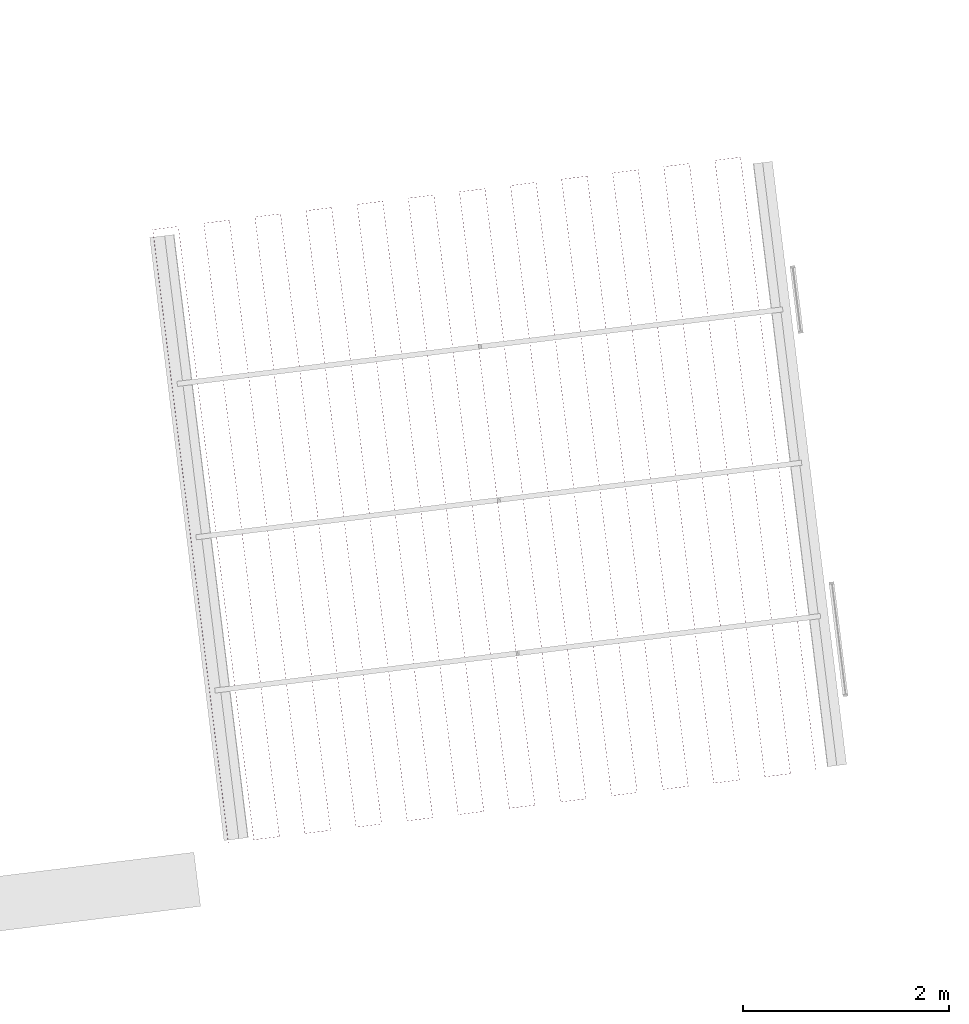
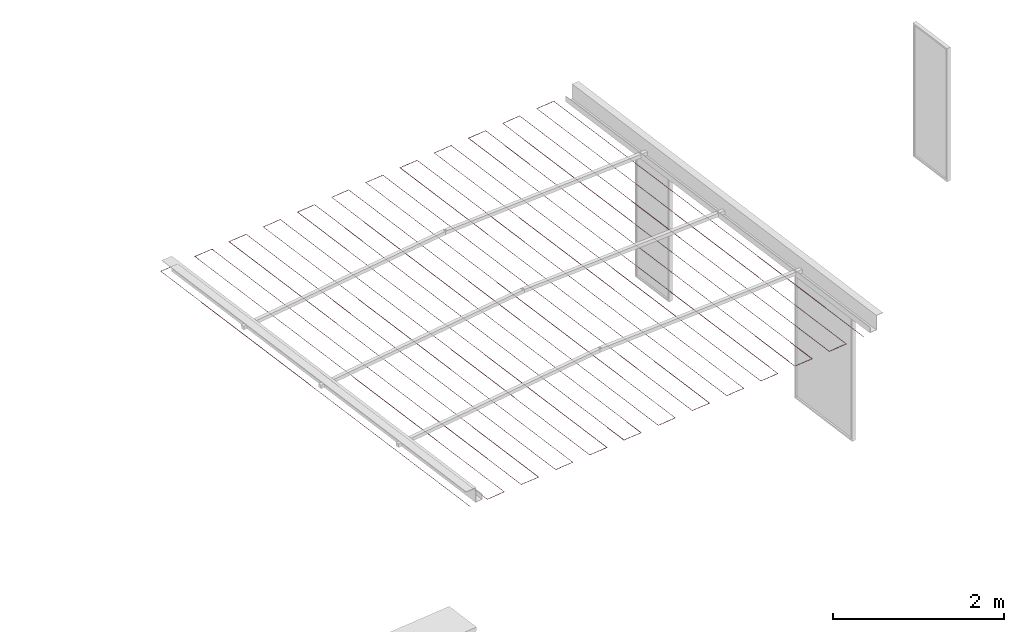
# One storey, part 9 of 10: 1 furnishing.
"""IFC2X3 building model written with IfcOpenShell, lengths in metres."""

from ifc_helpers import new_model, entity, si_unit, converted_unit, derived_unit, direction, frame, origin, place, context, subcontext, project, spatial, faceted_brep, source, transform, mapped, material, type_object, type_shapes, element, save


model = new_model("IFC2X3")

# Units and contexts
model_context = context("Model", 3, precision=1e-05, world=origin(), true_north=direction((6.123031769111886e-17, 1.0)))
body_context = subcontext(model_context, "Body", "Model", "MODEL_VIEW")
ifc_project = project(units=[si_unit("LENGTHUNIT", "METRE"), si_unit("AREAUNIT", "SQUARE_METRE"), si_unit("VOLUMEUNIT", "CUBIC_METRE"), converted_unit("PLANEANGLEUNIT", "DEGREE", entity("IfcRatioMeasure", 0.017453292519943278), si_unit("PLANEANGLEUNIT", "RADIAN"), dimensions=[0, 0, 0, 0, 0, 0, 0]), si_unit("MASSUNIT", "GRAM", prefix="KILO"), derived_unit("MASSDENSITYUNIT", [(si_unit("MASSUNIT", "GRAM", prefix="KILO"), 1), (si_unit("LENGTHUNIT", "METRE"), -3)]), derived_unit("IONCONCENTRATIONUNIT", [(si_unit("MASSUNIT", "GRAM", prefix="KILO"), 1), (si_unit("LENGTHUNIT", "METRE"), -3)]), derived_unit("MOMENTOFINERTIAUNIT", [(si_unit("LENGTHUNIT", "METRE"), 4)]), si_unit("TIMEUNIT", "SECOND"), si_unit("FREQUENCYUNIT", "HERTZ"), si_unit("THERMODYNAMICTEMPERATUREUNIT", "DEGREE_CELSIUS"), derived_unit("THERMALTRANSMITTANCEUNIT", [(si_unit("MASSUNIT", "GRAM", prefix="KILO"), 1), (si_unit("THERMODYNAMICTEMPERATUREUNIT", "KELVIN"), -1), (si_unit("TIMEUNIT", "SECOND"), -3)]), derived_unit("THERMALCONDUCTANCEUNIT", [(si_unit("MASSUNIT", "GRAM", prefix="KILO"), 1), (si_unit("THERMODYNAMICTEMPERATUREUNIT", "KELVIN"), -1), (si_unit("TIMEUNIT", "SECOND"), -3), (si_unit("LENGTHUNIT", "METRE"), 1)]), derived_unit("VOLUMETRICFLOWRATEUNIT", [(si_unit("LENGTHUNIT", "METRE"), 3), (si_unit("TIMEUNIT", "SECOND"), -1)]), derived_unit("MASSFLOWRATEUNIT", [(si_unit("MASSUNIT", "GRAM", prefix="KILO"), 1), (si_unit("TIMEUNIT", "SECOND"), -1)]), derived_unit("ROTATIONALFREQUENCYUNIT", [(si_unit("TIMEUNIT", "SECOND"), -1)]), si_unit("ELECTRICCURRENTUNIT", "AMPERE"), si_unit("ELECTRICVOLTAGEUNIT", "VOLT"), si_unit("POWERUNIT", "WATT"), si_unit("FORCEUNIT", "NEWTON", prefix="KILO"), si_unit("ILLUMINANCEUNIT", "LUX"), si_unit("LUMINOUSFLUXUNIT", "LUMEN"), si_unit("LUMINOUSINTENSITYUNIT", "CANDELA"), derived_unit("USERDEFINED", [(si_unit("MASSUNIT", "GRAM", prefix="KILO"), -1), (si_unit("LENGTHUNIT", "METRE"), -2), (si_unit("TIMEUNIT", "SECOND"), 3), (si_unit("LUMINOUSFLUXUNIT", "LUMEN"), 1)]), derived_unit("USERDEFINED", [(si_unit("MASSUNIT", "GRAM", prefix="KILO"), 1), (si_unit("TIMEUNIT", "SECOND"), -3), (si_unit("LENGTHUNIT", "METRE"), 3), (si_unit("ELECTRICCURRENTUNIT", "AMPERE"), -2)]), derived_unit("SOUNDPOWERUNIT", [(si_unit("MASSUNIT", "GRAM", prefix="KILO"), 1), (si_unit("TIMEUNIT", "SECOND"), -3), (si_unit("LENGTHUNIT", "METRE"), 2)]), derived_unit("SOUNDPRESSUREUNIT", [(si_unit("MASSUNIT", "GRAM", prefix="KILO"), 1), (si_unit("LENGTHUNIT", "METRE"), -1), (si_unit("TIMEUNIT", "SECOND"), -2)]), derived_unit("LINEARVELOCITYUNIT", [(si_unit("LENGTHUNIT", "METRE"), 1), (si_unit("TIMEUNIT", "SECOND"), -1)]), si_unit("PRESSUREUNIT", "PASCAL"), derived_unit("USERDEFINED", [(si_unit("MASSUNIT", "GRAM", prefix="KILO"), 1), (si_unit("LENGTHUNIT", "METRE"), -2), (si_unit("TIMEUNIT", "SECOND"), -2)]), derived_unit("LINEARFORCEUNIT", [(si_unit("MASSUNIT", "GRAM", prefix="KILO"), 1), (si_unit("TIMEUNIT", "SECOND"), -2)]), derived_unit("PLANARFORCEUNIT", [(si_unit("MASSUNIT", "GRAM", prefix="KILO"), 1), (si_unit("LENGTHUNIT", "METRE"), -1), (si_unit("TIMEUNIT", "SECOND"), -2)]), derived_unit("SPECIFICHEATCAPACITYUNIT", [(si_unit("THERMODYNAMICTEMPERATUREUNIT", "KELVIN"), -1), (si_unit("LENGTHUNIT", "METRE"), 2), (si_unit("TIMEUNIT", "SECOND"), -2)]), derived_unit("HEATINGVALUEUNIT", [(si_unit("LENGTHUNIT", "METRE"), 2), (si_unit("TIMEUNIT", "SECOND"), -2)]), derived_unit("VAPORPERMEABILITYUNIT", [(si_unit("LENGTHUNIT", "METRE"), -1), (si_unit("TIMEUNIT", "SECOND"), 1)]), derived_unit("DYNAMICVISCOSITYUNIT", [(si_unit("MASSUNIT", "GRAM", prefix="KILO"), 1), (si_unit("TIMEUNIT", "SECOND"), -1), (si_unit("LENGTHUNIT", "METRE"), -1)]), derived_unit("THERMALEXPANSIONCOEFFICIENTUNIT", [(si_unit("THERMODYNAMICTEMPERATUREUNIT", "KELVIN"), -1)]), derived_unit("MODULUSOFELASTICITYUNIT", [(si_unit("MASSUNIT", "GRAM", prefix="KILO"), 1), (si_unit("LENGTHUNIT", "METRE"), -1), (si_unit("TIMEUNIT", "SECOND"), -2)]), derived_unit("ISOTHERMALMOISTURECAPACITYUNIT", [(si_unit("LENGTHUNIT", "METRE"), 3), (si_unit("MASSUNIT", "GRAM", prefix="KILO"), -1)]), derived_unit("MOISTUREDIFFUSIVITYUNIT", [(si_unit("TIMEUNIT", "SECOND"), -1), (si_unit("LENGTHUNIT", "METRE"), 2)])], contexts=[model_context])

# Site, building, storey
site_placement = place(None, origin())
site = spatial("IfcSite", under=ifc_project, at=site_placement, Name="Default", CompositionType="ELEMENT")
building_placement = place(site_placement, origin())
building = spatial("IfcBuilding", under=site, at=building_placement, Name="Projeto", CompositionType="ELEMENT")
storey_placement = place(building_placement, frame((0.0, 0.0, -2.581035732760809)))
storey = spatial("IfcBuildingStorey", under=building, at=storey_placement, Name="Nível 9", CompositionType="ELEMENT", Elevation=-2.581035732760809)

# Furnishing
ifc_material = material(Name="Aço")
furniture_type = type_object("IfcFurnitureType", Name="Pergolado2:Pergolado", material=ifc_material)
shared_shape = source(origin(), body_context, "Body", "Brep", [
    faceted_brep([(0.7366170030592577, 0.0018395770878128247, 0.0025952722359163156), (0.7356244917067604, 0.0017174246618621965, 0.003595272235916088), (0.7346319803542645, 0.0015952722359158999, 0.0025952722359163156), (0.7356244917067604, 0.0017174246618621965, 0.0015952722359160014), (6.442564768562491, 0.7040938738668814, 0.00159527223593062), (6.443557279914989, 0.7042160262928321, 0.002595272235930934), (6.442564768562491, 0.7040938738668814, 0.003595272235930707), (6.441572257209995, 0.7039717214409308, 0.002595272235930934), (4.717138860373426, 6.537009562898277, 0.0035952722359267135), (4.716268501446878, 6.5358948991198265, 0.002595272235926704), (5.265832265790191, 2.070586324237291, 0.0025952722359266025), (5.44918305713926, 0.5808267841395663, 0.0025952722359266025), (5.450053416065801, 0.5819414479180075, 0.0035952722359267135), (5.266824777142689, 2.0707084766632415, 0.0035952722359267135), (5.267817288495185, 2.070830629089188, 0.0025952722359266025), (4.718009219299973, 6.538124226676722, 0.002595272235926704), (5.450923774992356, 0.5830561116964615, 0.0025952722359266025), (5.450053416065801, 0.5819414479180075, 0.0015952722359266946), (5.266824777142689, 2.0707084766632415, 0.0015952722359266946), (4.717138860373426, 6.537009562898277, 0.0015952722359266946), (4.21052888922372, 0.428380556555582, 0.0025952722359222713), (4.027178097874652, 1.9181400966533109, 0.0025952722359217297), (3.4776143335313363, 6.3834486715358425, 0.0025952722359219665), (3.4764996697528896, 6.3843190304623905, 0.003595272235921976), (4.026185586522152, 1.9180179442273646, 0.003595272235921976), (4.209414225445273, 0.4292509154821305, 0.003595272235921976), (3.4753850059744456, 6.385189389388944, 0.0025952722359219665), (4.025193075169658, 1.917895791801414, 0.0025952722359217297), (4.208299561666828, 0.43012127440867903, 0.0025952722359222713), (4.209414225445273, 0.4292509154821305, 0.0015952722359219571), (3.4764996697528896, 6.3843190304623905, 0.0015952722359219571), (4.026185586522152, 1.9180179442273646, 0.0015952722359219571), (3.7237571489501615, 6.413742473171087, 0.002595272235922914), (3.724627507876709, 6.414857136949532, 0.003595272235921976), (3.973870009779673, 6.4445248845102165, 0.0025952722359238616), (4.220012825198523, 6.474818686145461, 0.0025952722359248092), (4.220883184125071, 6.475933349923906, 0.003595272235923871), (3.972755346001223, 6.4453952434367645, 0.003595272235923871), (4.470125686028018, 6.505601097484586, 0.002595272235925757), (4.469011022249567, 6.506471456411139, 0.0035952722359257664), (4.966381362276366, 6.566677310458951, 0.0025952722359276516), (5.212524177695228, 6.596971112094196, 0.002595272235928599), (5.213394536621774, 6.598085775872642, 0.003595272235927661), (4.965266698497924, 6.5675476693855, 0.003595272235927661), (5.462637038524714, 6.627753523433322, 0.0025952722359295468), (5.708779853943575, 6.658047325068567, 0.0025952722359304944), (5.709650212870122, 6.65916198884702, 0.0035952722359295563), (5.461522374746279, 6.62862388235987, 0.0035952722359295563), (0.0038245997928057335, 5.95591518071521, 0.0025952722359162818), (0.24996741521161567, 5.98620898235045, 0.0025952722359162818), (0.25083777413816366, 5.987323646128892, 0.0035952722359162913), (0.002709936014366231, 5.956785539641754, 0.0035952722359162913), (0.5000802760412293, 6.016991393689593, 0.0025952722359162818), (0.7462230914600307, 6.047285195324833, 0.002595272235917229), (0.7470934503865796, 6.048399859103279, 0.0035952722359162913), (0.4989656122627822, 6.017861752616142, 0.0035952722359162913), (0.9963359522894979, 6.078067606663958, 0.0025952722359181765), (1.2424787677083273, 6.108361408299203, 0.0025952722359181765), (1.2433491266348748, 6.109476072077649, 0.003595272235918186), (0.9952212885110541, 6.078937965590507, 0.003595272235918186), (1.4925916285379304, 6.13914381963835, 0.0025952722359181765), (1.7387344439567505, 6.16943762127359, 0.002595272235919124), (1.7396048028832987, 6.170552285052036, 0.003595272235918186), (1.491476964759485, 6.140014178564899, 0.003595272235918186), (1.9888473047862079, 6.200220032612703, 0.0025952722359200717), (2.234990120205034, 6.230513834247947, 0.0025952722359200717), (2.235860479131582, 6.231628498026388, 0.0035952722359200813), (1.987732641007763, 6.201090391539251, 0.0035952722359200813), (2.4851029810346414, 6.261296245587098, 0.0025952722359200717), (2.731245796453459, 6.291590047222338, 0.0025952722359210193), (2.7321161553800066, 6.2927047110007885, 0.0035952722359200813), (2.483988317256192, 6.262166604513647, 0.0035952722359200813), (2.981358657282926, 6.322372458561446, 0.0025952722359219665), (3.227501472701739, 6.352666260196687, 0.0025952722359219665), (3.2283718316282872, 6.353780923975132, 0.003595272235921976), (2.9802439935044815, 6.323242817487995, 0.003595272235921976), (3.725497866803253, 6.415971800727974, 0.0025952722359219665), (4.22175354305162, 6.477048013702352, 0.0025952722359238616), (3.971640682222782, 6.446265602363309, 0.0025952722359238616), (4.467896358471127, 6.507341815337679, 0.002595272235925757), (5.214264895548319, 6.599200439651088, 0.0025952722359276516), (4.964152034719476, 6.568418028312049, 0.0025952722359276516), (5.7105205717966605, 6.660276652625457, 0.0025952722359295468), (5.460407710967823, 6.629494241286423, 0.0025952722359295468), (0.2517081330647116, 5.988438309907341, 0.0025952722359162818), (0.0015952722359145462, 5.957655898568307, 0.0025952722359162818), (0.7479638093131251, 6.049514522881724, 0.0025952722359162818), (0.4978509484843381, 6.01873211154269, 0.0025952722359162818), (1.244219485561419, 6.110590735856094, 0.0025952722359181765), (0.9941066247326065, 6.079808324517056, 0.0025952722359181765), (1.7404751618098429, 6.171666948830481, 0.0025952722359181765), (1.4903623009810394, 6.140884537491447, 0.0025952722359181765), (2.236730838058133, 6.232743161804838, 0.0025952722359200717), (1.986617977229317, 6.201960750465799, 0.0025952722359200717), (2.732986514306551, 6.29381937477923, 0.0025952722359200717), (2.4828736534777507, 6.263036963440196, 0.0025952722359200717), (3.2292421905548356, 6.354895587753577, 0.0025952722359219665), (2.9791293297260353, 6.324113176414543, 0.0025952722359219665), (3.724627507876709, 6.414857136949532, 0.0015952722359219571), (4.220883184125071, 6.475933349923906, 0.001595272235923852), (3.972755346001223, 6.4453952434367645, 0.001595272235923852), (4.469011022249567, 6.506471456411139, 0.001595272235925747), (5.213394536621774, 6.598085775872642, 0.0015952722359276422), (4.965266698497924, 6.5675476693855, 0.0015952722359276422), (5.709650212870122, 6.65916198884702, 0.0015952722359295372), (5.461522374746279, 6.62862388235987, 0.0015952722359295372), (0.25083777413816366, 5.987323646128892, 0.001595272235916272), (0.002709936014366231, 5.956785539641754, 0.001595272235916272), (0.7470934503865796, 6.048399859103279, 0.001595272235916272), (0.4989656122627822, 6.017861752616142, 0.001595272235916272), (1.2433491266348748, 6.109476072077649, 0.001595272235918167), (0.9952212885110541, 6.078937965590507, 0.001595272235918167), (1.7396048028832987, 6.170552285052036, 0.001595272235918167), (1.491476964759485, 6.140014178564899, 0.001595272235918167), (2.235860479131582, 6.231628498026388, 0.0015952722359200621), (1.987732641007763, 6.201090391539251, 0.0015952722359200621), (2.7321161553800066, 6.2927047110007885, 0.0015952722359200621), (2.483988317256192, 6.262166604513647, 0.0015952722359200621), (3.2283718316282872, 6.353780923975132, 0.0015952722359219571), (2.9802439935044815, 6.323242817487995, 0.0015952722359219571), (4.27332091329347, 1.9484338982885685, 0.0025952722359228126), (4.456671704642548, 0.45867435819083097, 0.0025952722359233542), (4.457542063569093, 0.45978902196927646, 0.0035952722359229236), (4.2743134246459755, 1.9485560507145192, 0.0035952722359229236), (4.275305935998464, 1.9486782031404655, 0.0025952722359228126), (4.458412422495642, 0.4609036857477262, 0.0025952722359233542), (4.457542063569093, 0.45978902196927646, 0.0015952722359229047), (4.2743134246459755, 1.9485560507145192, 0.0015952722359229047), (4.706784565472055, 0.48945676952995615, 0.0025952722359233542), (4.705669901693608, 0.49032712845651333, 0.0035952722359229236), (4.9529273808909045, 0.5197505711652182, 0.002595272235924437), (5.2030402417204, 0.5505329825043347, 0.0025952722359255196), (5.201925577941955, 0.5514033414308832, 0.003595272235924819), (4.953797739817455, 0.5208652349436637, 0.003595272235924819), (5.699295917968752, 0.6116091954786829, 0.0025952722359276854), (5.698181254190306, 0.6124795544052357, 0.0035952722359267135), (5.945438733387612, 0.6419029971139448, 0.0025952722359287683), (6.195551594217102, 0.6726854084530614, 0.002595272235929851), (6.194436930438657, 0.6735557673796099, 0.0035952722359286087), (5.946309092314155, 0.643017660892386, 0.0035952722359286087), (0.982881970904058, 0.031140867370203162, 0.002595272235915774), (1.2329948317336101, 0.06192327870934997, 0.002595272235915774), (1.2318801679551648, 0.06279363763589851, 0.0035952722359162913), (0.9837523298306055, 0.03225553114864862, 0.0035952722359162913), (1.4791376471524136, 0.09221708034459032, 0.002595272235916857), (1.7292505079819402, 0.12299949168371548, 0.0025952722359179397), (1.728135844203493, 0.12386985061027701, 0.0035952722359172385), (1.4800080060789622, 0.09333174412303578, 0.0035952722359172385), (1.9753933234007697, 0.15329329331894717, 0.0025952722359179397), (2.2255061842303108, 0.18407570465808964, 0.0025952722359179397), (2.2243915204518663, 0.18494606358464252, 0.003595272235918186), (1.9762636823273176, 0.15440795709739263, 0.003595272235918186), (2.471648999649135, 0.21436950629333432, 0.0025952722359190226), (2.721761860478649, 0.24515191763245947, 0.0025952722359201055), (2.720647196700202, 0.246022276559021, 0.0035952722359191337), (2.4725193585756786, 0.21548417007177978, 0.0035952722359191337), (2.9679046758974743, 0.27544571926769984, 0.0025952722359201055), (3.218017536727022, 0.3062281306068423, 0.0025952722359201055), (3.216902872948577, 0.30709848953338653, 0.0035952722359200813), (2.9687750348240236, 0.2765603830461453, 0.0035952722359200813), (3.464160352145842, 0.33652193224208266, 0.0025952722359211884), (3.7142732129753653, 0.3673043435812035, 0.0025952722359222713), (3.71315854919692, 0.368174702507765, 0.003595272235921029), (3.4650307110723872, 0.3376365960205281, 0.003595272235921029), (3.960416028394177, 0.3975981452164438, 0.0025952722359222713), (3.96128638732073, 0.3987128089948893, 0.003595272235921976), (4.704555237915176, 0.49119748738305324, 0.0025952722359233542), (5.200810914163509, 0.5522737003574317, 0.002595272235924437), (4.9546680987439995, 0.521979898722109, 0.002595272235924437), (5.697066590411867, 0.6133499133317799, 0.0025952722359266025), (6.193322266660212, 0.6744261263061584, 0.0025952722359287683), (5.947179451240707, 0.64413232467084, 0.0025952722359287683), (1.230765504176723, 0.06366399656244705, 0.002595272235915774), (0.984622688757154, 0.03337019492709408, 0.002595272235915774), (1.727021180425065, 0.12474020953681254, 0.002595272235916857), (1.480878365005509, 0.09444640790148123, 0.002595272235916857), (2.223276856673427, 0.1858164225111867, 0.0025952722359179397), (1.9771340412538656, 0.15552262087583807, 0.0025952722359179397), (2.7195325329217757, 0.24689263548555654, 0.0025952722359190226), (2.4733897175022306, 0.21659883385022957, 0.0025952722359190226), (3.215788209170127, 0.3079688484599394, 0.0025952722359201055), (2.96964539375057, 0.27767504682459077, 0.0025952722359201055), (3.7120438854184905, 0.3690450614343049, 0.0025952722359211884), (3.4659010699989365, 0.3387512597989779, 0.0025952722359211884), (3.962156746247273, 0.39982747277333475, 0.0025952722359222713), (4.705669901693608, 0.49032712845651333, 0.0015952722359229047), (5.201925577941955, 0.5514033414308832, 0.0015952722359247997), (4.953797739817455, 0.5208652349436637, 0.0015952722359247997), (5.698181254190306, 0.6124795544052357, 0.0015952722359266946), (6.194436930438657, 0.6735557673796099, 0.0015952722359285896), (5.946309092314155, 0.643017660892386, 0.0015952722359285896), (1.2318801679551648, 0.06279363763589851, 0.001595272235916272), (0.9837523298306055, 0.03225553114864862, 0.001595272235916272), (1.728135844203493, 0.12386985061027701, 0.0015952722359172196), (1.4800080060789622, 0.09333174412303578, 0.0015952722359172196), (2.2243915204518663, 0.18494606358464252, 0.001595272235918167), (1.9762636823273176, 0.15440795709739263, 0.001595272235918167), (2.720647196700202, 0.246022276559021, 0.0015952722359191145), (2.4725193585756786, 0.21548417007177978, 0.0015952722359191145), (3.216902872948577, 0.30709848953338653, 0.0015952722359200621), (2.9687750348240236, 0.2765603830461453, 0.0015952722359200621), (3.71315854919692, 0.368174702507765, 0.0015952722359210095), (3.4650307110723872, 0.3376365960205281, 0.0015952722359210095), (3.96128638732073, 0.3987128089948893, 0.0015952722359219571), (4.523433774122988, 1.9792163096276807, 0.0025952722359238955), (4.52244126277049, 1.97909415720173, 0.003595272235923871), (4.521448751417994, 1.9789720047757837, 0.0025952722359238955), (4.52244126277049, 1.97909415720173, 0.001595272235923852), (4.769576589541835, 2.009510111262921, 0.0025952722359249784), (4.7705691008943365, 2.0096322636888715, 0.003595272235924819), (4.7715616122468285, 2.0097544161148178, 0.0025952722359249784), (4.7705691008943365, 2.0096322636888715, 0.0015952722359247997), (5.019689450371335, 2.040292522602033, 0.0025952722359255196), (5.018696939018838, 2.0401703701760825, 0.0035952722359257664), (5.017704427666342, 2.0400482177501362, 0.0025952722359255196), (5.018696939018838, 2.0401703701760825, 0.001595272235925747), (5.515945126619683, 2.1013687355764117, 0.0025952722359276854), (5.514952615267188, 2.101246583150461, 0.003595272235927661), (5.51396010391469, 2.1011244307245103, 0.0025952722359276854), (5.514952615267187, 2.101246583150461, 0.0015952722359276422), (5.7620879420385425, 2.1316625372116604, 0.0025952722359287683), (5.763080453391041, 2.131784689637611, 0.0035952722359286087), (5.764072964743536, 2.1319068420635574, 0.0025952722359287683), (5.763080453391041, 2.131784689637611, 0.0015952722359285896), (6.012200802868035, 2.1624449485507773, 0.00259527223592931), (6.011208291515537, 2.1623227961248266, 0.0035952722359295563), (6.0102157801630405, 2.1622006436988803, 0.00259527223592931), (6.011208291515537, 2.1623227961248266, 0.0015952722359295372), (6.258343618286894, 2.1927387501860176, 0.002595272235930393), (6.259336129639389, 2.1928609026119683, 0.003595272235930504), (6.2603286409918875, 2.1929830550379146, 0.002595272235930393), (6.259336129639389, 2.1928609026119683, 0.0015952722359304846), (1.049644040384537, 1.5516828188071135, 0.0025952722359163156), (1.04865152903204, 1.5515606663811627, 0.0035952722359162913), (1.0476590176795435, 1.5514385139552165, 0.0025952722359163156), (1.04865152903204, 1.5515606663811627, 0.001595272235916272), (1.2957868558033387, 1.5819766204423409, 0.0025952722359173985), (1.296779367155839, 1.5820987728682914, 0.0035952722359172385), (1.2977718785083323, 1.5822209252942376, 0.0025952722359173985), (1.296779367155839, 1.5820987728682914, 0.0015952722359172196), (2.0421553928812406, 1.6738352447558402, 0.0025952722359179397), (2.0411628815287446, 1.6737130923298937, 0.003595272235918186), (2.0401703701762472, 1.6735909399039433, 0.0025952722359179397), (2.0411628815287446, 1.6737130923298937, 0.001595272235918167), (2.28829820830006, 1.704129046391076, 0.0025952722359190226), (2.2892907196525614, 1.7042511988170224, 0.0035952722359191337), (2.290283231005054, 1.704373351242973, 0.0025952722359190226), (2.2892907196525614, 1.7042511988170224, 0.0015952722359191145), (3.0346667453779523, 1.795987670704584, 0.0025952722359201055), (3.0336742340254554, 1.7958655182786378, 0.0035952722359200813), (3.032681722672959, 1.7957433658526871, 0.0025952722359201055), (3.0336742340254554, 1.7958655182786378, 0.0015952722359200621), (3.2808095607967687, 1.8262814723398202, 0.0025952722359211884), (3.28180207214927, 1.8264036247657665, 0.003595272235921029), (3.2827945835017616, 1.8265257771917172, 0.0025952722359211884), (3.28180207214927, 1.8264036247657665, 0.0015952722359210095)], [[[0, 1, 2, 3]], [[4, 5, 6, 7]], [[8, 9, 10, 11, 12, 13]], [[14, 15, 8, 13, 12, 16]], [[14, 16, 17, 18, 19, 15]], [[18, 17, 11, 10, 9, 19]], [[20, 21, 22, 23, 24, 25]], [[24, 23, 26, 27, 28, 25]], [[29, 28, 27, 26, 30, 31]], [[21, 20, 29, 31, 30, 22]], [[22, 32, 33, 23]], [[34, 35, 36, 37]], [[38, 9, 8, 39]], [[40, 41, 42, 43]], [[44, 45, 46, 47]], [[48, 49, 50, 51]], [[52, 53, 54, 55]], [[56, 57, 58, 59]], [[60, 61, 62, 63]], [[64, 65, 66, 67]], [[68, 69, 70, 71]], [[72, 73, 74, 75]], [[33, 76, 26, 23]], [[36, 77, 78, 37]], [[8, 15, 79, 39]], [[42, 80, 81, 43]], [[46, 82, 83, 47]], [[50, 84, 85, 51]], [[54, 86, 87, 55]], [[58, 88, 89, 59]], [[62, 90, 91, 63]], [[66, 92, 93, 67]], [[70, 94, 95, 71]], [[74, 96, 97, 75]], [[26, 76, 98, 30]], [[78, 77, 99, 100]], [[79, 15, 19, 101]], [[81, 80, 102, 103]], [[83, 82, 104, 105]], [[85, 84, 106, 107]], [[87, 86, 108, 109]], [[89, 88, 110, 111]], [[91, 90, 112, 113]], [[93, 92, 114, 115]], [[95, 94, 116, 117]], [[97, 96, 118, 119]], [[98, 32, 22, 30]], [[99, 35, 34, 100]], [[19, 9, 38, 101]], [[102, 41, 40, 103]], [[104, 45, 44, 105]], [[106, 49, 48, 107]], [[108, 53, 52, 109]], [[110, 57, 56, 111]], [[112, 61, 60, 113]], [[114, 65, 64, 115]], [[116, 69, 68, 117]], [[118, 73, 72, 119]], [[33, 32, 120, 121, 122, 123]], [[124, 76, 33, 123, 122, 125]], [[124, 125, 126, 127, 98, 76]], [[127, 126, 121, 120, 32, 98]], [[121, 128, 129, 122]], [[130, 131, 132, 133]], [[11, 134, 135, 12]], [[136, 137, 138, 139]], [[140, 141, 142, 143]], [[144, 145, 146, 147]], [[148, 149, 150, 151]], [[152, 153, 154, 155]], [[156, 157, 158, 159]], [[160, 161, 162, 163]], [[164, 20, 25, 165]], [[129, 166, 125, 122]], [[132, 167, 168, 133]], [[135, 169, 16, 12]], [[138, 170, 171, 139]], [[142, 172, 173, 143]], [[146, 174, 175, 147]], [[150, 176, 177, 151]], [[154, 178, 179, 155]], [[158, 180, 181, 159]], [[162, 182, 183, 163]], [[25, 28, 184, 165]], [[125, 166, 185, 126]], [[168, 167, 186, 187]], [[16, 169, 188, 17]], [[171, 170, 189, 190]], [[173, 172, 191, 192]], [[175, 174, 193, 194]], [[177, 176, 195, 196]], [[179, 178, 197, 198]], [[181, 180, 199, 200]], [[183, 182, 201, 202]], [[184, 28, 29, 203]], [[185, 128, 121, 126]], [[186, 131, 130, 187]], [[188, 134, 11, 17]], [[189, 137, 136, 190]], [[191, 141, 140, 192]], [[193, 145, 144, 194]], [[195, 149, 148, 196]], [[197, 153, 152, 198]], [[199, 157, 156, 200]], [[201, 161, 160, 202]], [[29, 20, 164, 203]], [[128, 204, 34, 37, 205, 129]], [[205, 37, 78, 206, 166, 129]], [[166, 206, 78, 100, 207, 185]], [[204, 128, 185, 207, 100, 34]], [[36, 35, 208, 130, 133, 209]], [[210, 77, 36, 209, 133, 168]], [[210, 168, 187, 211, 99, 77]], [[211, 187, 130, 208, 35, 99]], [[131, 212, 38, 39, 213, 132]], [[213, 39, 79, 214, 167, 132]], [[167, 214, 79, 101, 215, 186]], [[212, 131, 186, 215, 101, 38]], [[134, 216, 40, 43, 217, 135]], [[217, 43, 81, 218, 169, 135]], [[188, 169, 218, 81, 103, 219]], [[216, 134, 188, 219, 103, 40]], [[42, 41, 220, 136, 139, 221]], [[222, 80, 42, 221, 139, 171]], [[222, 171, 190, 223, 102, 80]], [[223, 190, 136, 220, 41, 102]], [[137, 224, 44, 47, 225, 138]], [[225, 47, 83, 226, 170, 138]], [[189, 170, 226, 83, 105, 227]], [[224, 137, 189, 227, 105, 44]], [[46, 45, 228, 7, 6, 229]], [[230, 82, 46, 229, 6, 5]], [[230, 5, 4, 231, 104, 82]], [[231, 4, 7, 228, 45, 104]], [[0, 48, 51, 1]], [[51, 85, 2, 1]], [[2, 85, 107, 3]], [[48, 0, 3, 107]], [[50, 49, 140, 143]], [[173, 84, 50, 143]], [[173, 192, 106, 84]], [[192, 140, 49, 106]], [[141, 232, 52, 55, 233, 142]], [[233, 55, 87, 234, 172, 142]], [[172, 234, 87, 109, 235, 191]], [[232, 141, 191, 235, 109, 52]], [[54, 53, 236, 144, 147, 237]], [[238, 86, 54, 237, 147, 175]], [[238, 175, 194, 239, 108, 86]], [[239, 194, 144, 236, 53, 108]], [[145, 56, 59, 146]], [[59, 89, 174, 146]], [[174, 89, 111, 193]], [[56, 145, 193, 111]], [[58, 57, 148, 151]], [[177, 88, 58, 151]], [[177, 196, 110, 88]], [[196, 148, 57, 110]], [[149, 240, 60, 63, 241, 150]], [[241, 63, 91, 242, 176, 150]], [[176, 242, 91, 113, 243, 195]], [[240, 149, 195, 243, 113, 60]], [[62, 61, 244, 152, 155, 245]], [[246, 90, 62, 245, 155, 179]], [[246, 179, 198, 247, 112, 90]], [[247, 198, 152, 244, 61, 112]], [[153, 64, 67, 154]], [[67, 93, 178, 154]], [[197, 178, 93, 115]], [[64, 153, 197, 115]], [[66, 65, 156, 159]], [[181, 92, 66, 159]], [[181, 200, 114, 92]], [[200, 156, 65, 114]], [[157, 248, 68, 71, 249, 158]], [[249, 71, 95, 250, 180, 158]], [[199, 180, 250, 95, 117, 251]], [[248, 157, 199, 251, 117, 68]], [[70, 69, 252, 160, 163, 253]], [[254, 94, 70, 253, 163, 183]], [[254, 183, 202, 255, 116, 94]], [[255, 202, 160, 252, 69, 116]], [[161, 72, 75, 162]], [[75, 97, 182, 162]], [[201, 182, 97, 119]], [[72, 161, 201, 119]], [[74, 73, 164, 165]], [[184, 96, 74, 165]], [[184, 203, 118, 96]], [[203, 164, 73, 118]]]),
])
type_shapes(furniture_type, [shared_shape])
furnishing_placement = place(storey_placement, frame((1.6231001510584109, 28.740734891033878, 2.3034404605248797)))
element("IfcFurnishingElement", 1, at=furnishing_placement, inside=storey, type_object=furniture_type, material=ifc_material, Name="Pergolado2:Pergolado", ObjectType="Pergolado2:Pergolado", context=body_context, shape_type="MappedRepresentation", body=[
    mapped(shared_shape, transform((0.0, 0.0, 0.0), scale=1.0)),
])

save(model, "model.ifc")
